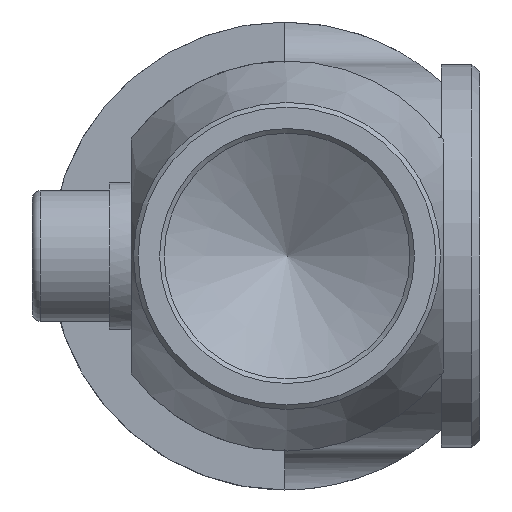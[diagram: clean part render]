
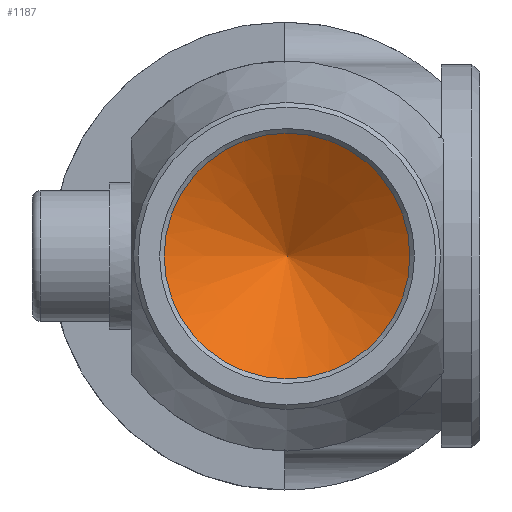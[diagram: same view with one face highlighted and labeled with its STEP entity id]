
A CAD part, front view. The second image highlights one B-rep face of the part: STEP entity #1187.
In plain terms, the highlighted conical face has half-angle 59 degrees and reference radius 4 mm.
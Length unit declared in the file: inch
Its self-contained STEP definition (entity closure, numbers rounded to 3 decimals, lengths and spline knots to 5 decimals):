
#187=FACE_OUTER_BOUND('',#266,.T.);
#266=EDGE_LOOP('',(#912,#913,#914));
#347=LINE('',#2080,#414);
#414=VECTOR('',#1646,0.15748);
#475=CIRCLE('',#1387,0.31496);
#548=VERTEX_POINT('',#1968);
#565=VERTEX_POINT('',#2079);
#665=EDGE_CURVE('',#548,#548,#475,.T.);
#694=EDGE_CURVE('',#548,#565,#347,.T.);
#912=ORIENTED_EDGE('',*,*,#665,.T.);
#913=ORIENTED_EDGE('',*,*,#694,.T.);
#914=ORIENTED_EDGE('',*,*,#694,.F.);
#1156=CONICAL_SURFACE('',#1414,0.15748,1.03);
#1187=ADVANCED_FACE('',(#187),#1156,.F.);
#1387=AXIS2_PLACEMENT_3D('',#1970,#1580,#1581);
#1414=AXIS2_PLACEMENT_3D('',#2078,#1644,#1645);
#1580=DIRECTION('center_axis',(0.,-1.,0.));
#1581=DIRECTION('ref_axis',(1.,0.,0.));
#1644=DIRECTION('center_axis',(0.,-1.,0.));
#1645=DIRECTION('ref_axis',(1.,0.,0.));
#1646=DIRECTION('',(0.857,0.515,0.));
#1968=CARTESIAN_POINT('',(-0.31496,1.33858,0.));
#1970=CARTESIAN_POINT('Origin',(0.,1.33858,0.));
#2078=CARTESIAN_POINT('Origin',(0.,1.43321,0.));
#2079=CARTESIAN_POINT('',(0.,1.52783,0.));
#2080=CARTESIAN_POINT('',(-0.15748,1.43321,0.));
